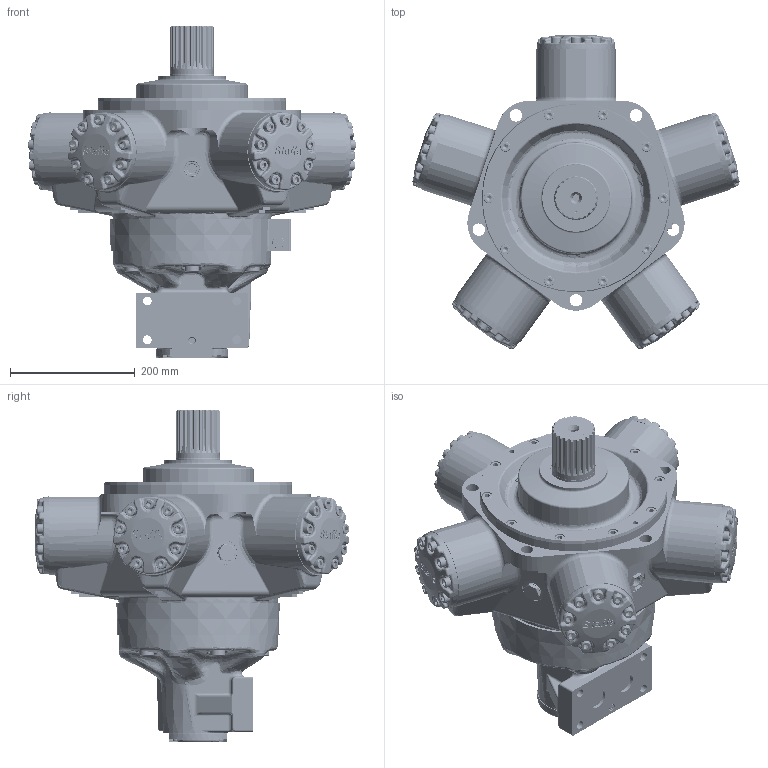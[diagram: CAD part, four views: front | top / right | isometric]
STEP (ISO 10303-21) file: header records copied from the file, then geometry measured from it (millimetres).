
FILE_DESCRIPTION(/* description */ (''),/* implementation_level */ '2;1');
FILE_NAME(/* name */ 'HMC080_Z_SM3_C_82.stp',/* time_stamp */ '2026-02-17T10:50:35Z',/* author */ ('ccallanga'),/* organization */ (''),/* preprocessor_version */ 'ST-DEVELOPER v20',/* originating_system */ 'Autodesk Inventor 2024',/* authorisation */ '');
FILE_SCHEMA (('AUTOMOTIVE_DESIGN { 1 0 10303 214 3 1 1 }'));
Products named in the file (1): 017754 HMC080 WEBSITE ASSEMBLY_Simplify_1
Bounding box: 524.48 x 502.42 x 531.21 mm (x, y, z)
Volume: 28933264.3 mm3; surface area: 879675.8 mm2
Topology: 1 solids, 1 shells, 5441 faces, 13160 edges, 7730 vertices
Faces by surface type: bspline 1881, plane 1436, cylinder 1200, torus 563, sphere 185, cone 176
Full cylindrical faces by diameter (mm): 2.2 x4, 4 x1, 4.134 x4, 5.5 x4, 6.5 x1, 7 x1, 8.376 x2, 9.4 x2, 11.328 x1, 11.913 x4, 12 x2, 12.7 x4, 14 x4, 16 x55, 16.5 x45, 16.51 x1, 17 x10, 19 x1, 20 x9, 23.825 x5, 25 x1, 25.4 x5, 26.92 x2, 32 x2, 38.1 x3, 68.58 x1, 69.4 x1, 69.825 x1, 73.914 x1, 88.901 x1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
Entity records: 220081 total; most frequent: CARTESIAN_POINT 107083, ORIENTED_EDGE 25846, DIRECTION 19803, EDGE_CURVE 12923, AXIS2_PLACEMENT_3D 7789, VERTEX_POINT 7730, EDGE_LOOP 5715, FACE_OUTER_BOUND 5441
